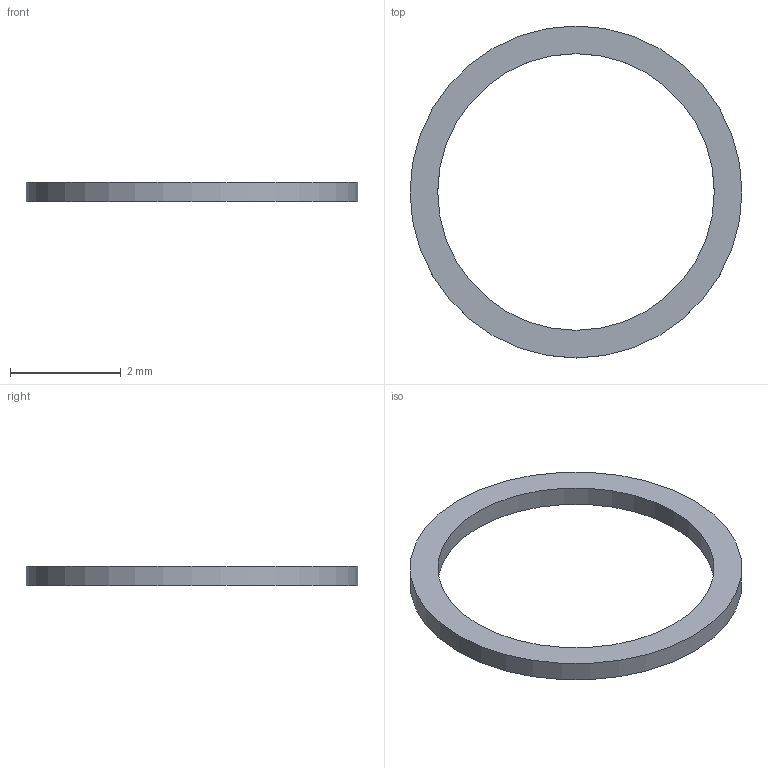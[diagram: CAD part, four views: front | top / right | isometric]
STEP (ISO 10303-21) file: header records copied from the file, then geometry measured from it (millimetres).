
FILE_DESCRIPTION(/* description */ ('STEP AP242 Edition 2','CAx-IF Rec.Pracs.---Representation and Presentation of Product Manufacturing Information (PMI)---4.0---2014-10-13','CAx-IF Rec.Pracs.---3D Tessellated Geometry---0.4---2014-09-14','2;1','CAx-IF Rec.Pracs.---User Defined Attributes---1.5---2016-08-15'),/* implementation_level */ '2;1');
FILE_NAME(/* name */ 'Final Build - M5 Locknut lock (11)',/* time_stamp */ '2026-08-31T23:26:14Z',/* author */ (''),/* organization */ (''),/* preprocessor_version */ 'ST-DEVELOPER v20',/* originating_system */ 'ONSHAPE BY PTC INC, 1.220',/* authorisation */ ' ');
FILE_SCHEMA (('AP242_MANAGED_MODEL_BASED_3D_ENGINEERING_MIM_LF { 1 0 10303 442 3 1 4 }'));
Length unit declared in the file: metre
Products named in the file (1): M5 Locknut lock
Bounding box: 6 x 6 x 0.36 mm (x, y, z)
Volume: 3.1 mm3; surface area: 29.7 mm2
Topology: 1 solids, 1 shells, 4 faces, 6 edges, 4 vertices
Faces by surface type: cylinder 2, plane 2
Full cylindrical faces by diameter (mm): 5 x1, 6 x1
Entity records: 110 total; most frequent: DIRECTION 18, CARTESIAN_POINT 13, AXIS2_PLACEMENT_3D 9, ORIENTED_EDGE 8, EDGE_LOOP 8, FACE_BOUND 8, EDGE_CURVE 4, VERTEX_POINT 4
